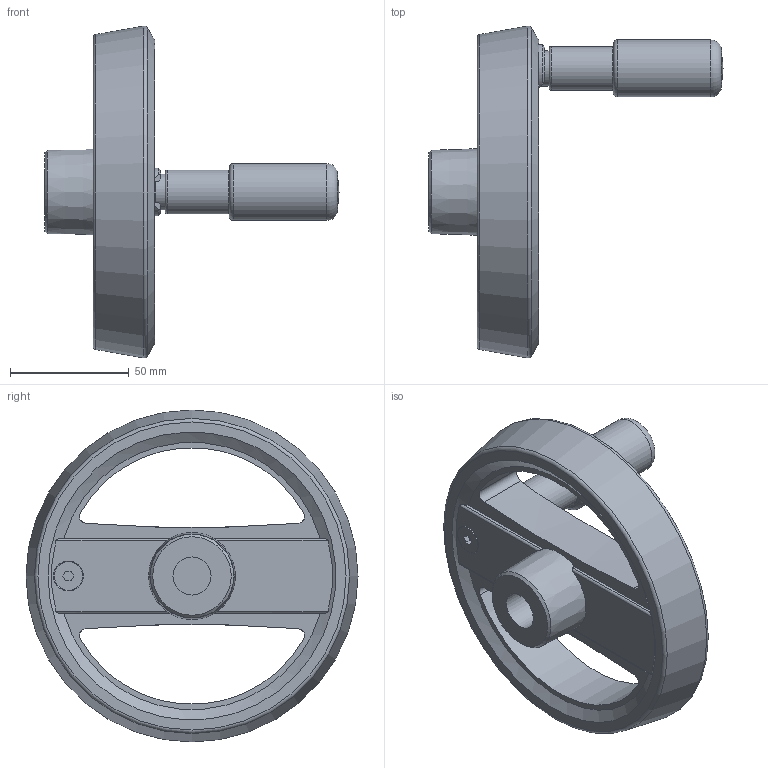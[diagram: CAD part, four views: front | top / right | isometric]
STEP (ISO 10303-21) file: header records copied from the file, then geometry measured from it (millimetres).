
FILE_DESCRIPTION( ( 'STEP AP203' ), '1' );
FILE_NAME( 'C:/Temp/Ganter_Step_05_03_2020/data/1_3/gn_924_7/gn_924_7_b/Handwheel with retractable handle GN 924.7-140-B16-R-SW (activated).stp', '2020-03-05T10:41:34', ( 'License CC BY-ND 4.0' ), ( 'CADENAS' ), ' ', 'PARTsolutions', ' ' );
FILE_SCHEMA( ( 'CONFIG_CONTROL_DESIGN' ) );
Length unit declared in the file: millimetre
Products named in the file (3): Handwheel with retractable handle GN 924.7-140-B16-R-SW (activated); _Umleggriff-Handrad GN 924.7-140-B16-R-SW-1; _Umleggriff-Handrad GN 924.7-140-B16-R-SW (90)-2
Assembly tree (2 placements, depth 2):
  Handwheel with retractable handle GN 924.7-140-B16-R-SW (activated)
    _Umleggriff-Handrad GN 924.7-140-B16-R-SW-1
    _Umleggriff-Handrad GN 924.7-140-B16-R-SW (90)-2
Bounding box: 123.7 x 139.68 x 139.68 mm (x, y, z)
Volume: 223036.8 mm3; surface area: 57908.3 mm2
Topology: 2 solids, 2 shells, 102 faces, 257 edges, 166 vertices
Faces by surface type: plane 44, cylinder 38, cone 10, torus 8, sphere 2
Full cylindrical faces by diameter (mm): 4 x4, 5 x1, 8 x1, 12 x1, 15 x1, 16 x1, 18.5 x1, 20 x1, 24 x1, 25 x1, 25.6 x1
Entity records: 3339 total; most frequent: CARTESIAN_POINT 961, DIRECTION 474, ORIENTED_EDGE 426, EDGE_CURVE 213, AXIS2_PLACEMENT_3D 198, VERTEX_POINT 158, EDGE_LOOP 150, FACE_OUTER_BOUND 123
